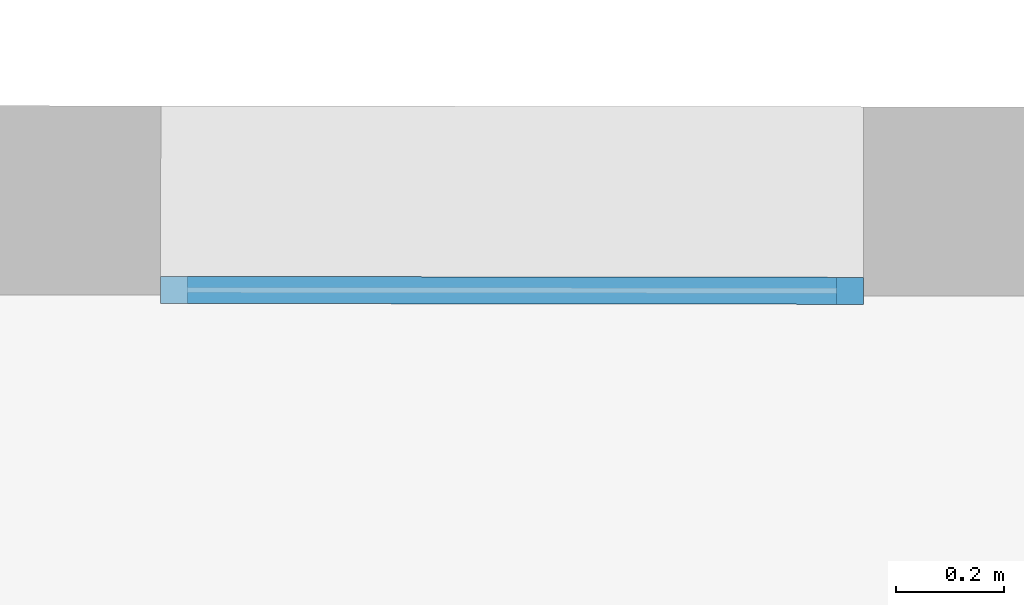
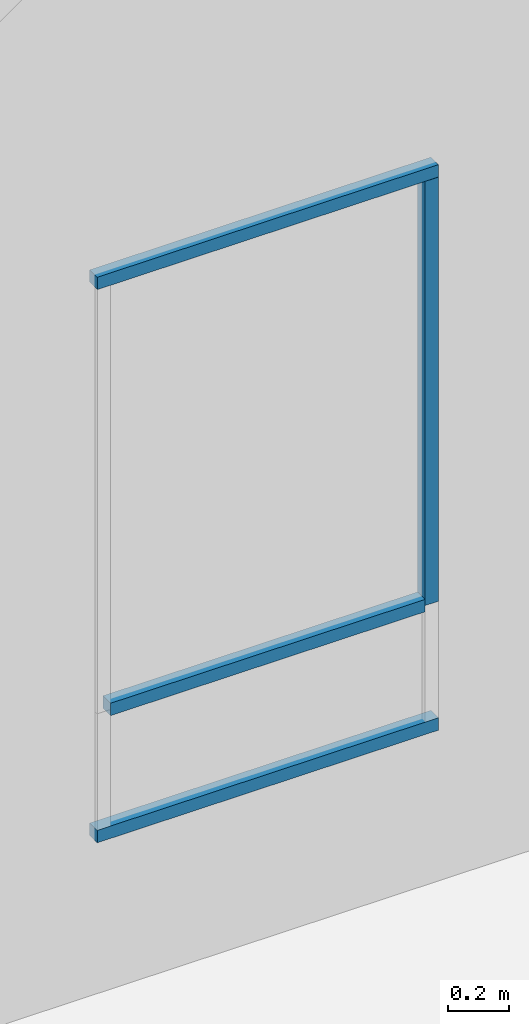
# One storey, part 4 of 35: 4 members, 1 element without a shape of its own.
"""IFC2X3 building model written with IfcOpenShell, lengths in metres."""

from ifc_helpers import new_model, entity, si_unit, converted_unit, derived_unit, direction, frame, frame_2d, origin, origin_2d_with_axis, place, context, subcontext, project, spatial, rectangle, extrude, source, transform, mapped, material, type_object, type_shapes, element, aggregate, save


model = new_model("IFC2X3")

# Units and contexts
model_context = context("Model", 3, precision=1e-05, world=origin(), true_north=direction((6.123233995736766e-17, 1.0)))
body_context = subcontext(model_context, "Body", "Model", "MODEL_VIEW")
ifc_project = project(units=[si_unit("LENGTHUNIT", "METRE"), si_unit("AREAUNIT", "SQUARE_METRE"), converted_unit("PLANEANGLEUNIT", "DEGREE", entity("IfcPlaneAngleMeasure", 0.017453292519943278), si_unit("PLANEANGLEUNIT", "RADIAN"), dimensions=[0, 0, 0, 0, 0, 0, 0]), derived_unit("THERMALTRANSMITTANCEUNIT", [(si_unit("MASSUNIT", "GRAM", prefix="KILO"), 1), (si_unit("THERMODYNAMICTEMPERATUREUNIT", "KELVIN"), -1), (si_unit("TIMEUNIT", "SECOND"), -3)])], contexts=[model_context])

# Site, building, storey
site_placement = place(None, frame((1253.6752467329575, 2072.143113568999, 91.49999999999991), z_axis=(0.0, 0.0, 1.0), x_axis=(0.7237211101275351, 0.6900925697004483, 0.0)))
site = spatial("IfcSite", under=ifc_project, at=site_placement, Name="Surface", CompositionType="ELEMENT")
building_placement = place(site_placement, origin())
building = spatial("IfcBuilding", under=site, at=building_placement, CompositionType="ELEMENT")
storey_placement = place(building_placement, frame((0.0, 0.0, 3.549999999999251)))
storey = spatial("IfcBuildingStorey", under=building, at=storey_placement, Name="1-R+1", CompositionType="ELEMENT", Elevation=3.549999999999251)

# Curtain wall, members
curtain_wall_type = type_object("IfcCurtainWallType", Name="Mur-rideau:Menuiserie Ext 1F+1OB VERTIC", PredefinedType="NOTDEFINED")
curtain_wall_placement = place(storey_placement, frame((0.0, 0.0, -3.549999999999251)))
curtain_wall = element("IfcCurtainWall", 1, at=curtain_wall_placement, inside=storey, type_object=curtain_wall_type, Name="Mur-rideau:Menuiserie Ext 1F+1OB VERTIC", ObjectType="Mur-rideau:Menuiserie Ext 1F+1OB VERTIC")
ifc_material = material(Name="OMD_Aluminium Men Ext")
member_type_1 = type_object("IfcMemberType", Name="Meneau rectangulaire:50x50", PredefinedType="MULLION", material=ifc_material)
shared_shape_1 = source(origin(), body_context, "Body", "SweptSolid", [
    extrude(rectangle(XDim=0.05, YDim=0.049999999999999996, at=origin_2d_with_axis()), frame((-0.025, 0.0, -1.2996959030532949), z_axis=(0.0, 0.0, 1.0), x_axis=(-1.0, 0.0, 0.0)), (0.0, 0.0, 1.0), 1.2996959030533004),
])
type_shapes(member_type_1, [shared_shape_1])
member_1_placement = place(curtain_wall_placement, frame((171.08228405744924, -9.892648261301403, 6.4499999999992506), z_axis=(-0.7228702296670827, 0.6909838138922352, 0.0), x_axis=(0.0, 0.0, 1.0)))
member_1 = element("IfcMember", 2, at=member_1_placement, type_object=member_type_1, material=ifc_material, Name="Meneau rectangulaire:50x50", ObjectType="Meneau rectangulaire:50x50", context=body_context, shape_type="MappedRepresentation", body=[
    mapped(shared_shape_1, transform((0.0, 0.0, 0.0), scale=1.0)),
])
member_type_2 = type_object("IfcMemberType", Name="Meneau rectangulaire:50x50", PredefinedType="MULLION", material=ifc_material)
shared_shape_2 = source(origin(), body_context, "Body", "SweptSolid", [
    extrude(rectangle(XDim=0.05, YDim=0.05, at=origin_2d_with_axis()), frame((-0.025, 0.0, -1.2996959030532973), z_axis=(0.0, 0.0, 1.0), x_axis=(-1.0, 0.0, 0.0)), (0.0, 0.0, 1.0), 1.2996959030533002),
])
type_shapes(member_type_2, [shared_shape_2])
member_2_placement = place(curtain_wall_placement, frame((172.02179553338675, -10.790717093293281, 4.169999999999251), z_axis=(0.7228702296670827, -0.6909838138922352, 0.0), x_axis=(0.0, 0.0, -1.0)))
member_2 = element("IfcMember", 3, at=member_2_placement, type_object=member_type_2, material=ifc_material, Name="Meneau rectangulaire:50x50", ObjectType="Meneau rectangulaire:50x50", context=body_context, shape_type="MappedRepresentation", body=[
    mapped(shared_shape_2, transform((0.0, 0.0, 0.0), scale=1.0)),
])
member_type_3 = type_object("IfcMemberType", Name="Meneau rectangulaire:50x50", PredefinedType="MULLION", material=ifc_material)
shared_shape_3 = source(origin(), body_context, "Body", "SweptSolid", [
    extrude(rectangle(XDim=0.05, YDim=0.049999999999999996, at=origin_2d_with_axis()), frame((-0.025, 0.0, -1.7099999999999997), z_axis=(0.0, 0.0, 1.0), x_axis=(-1.0, 0.0, 0.0)), (0.0, 0.0, 1.0), 1.7099999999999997),
])
type_shapes(member_type_3, [shared_shape_3])
member_3_placement = place(curtain_wall_placement, frame((172.02179553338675, -10.790717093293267, 6.399999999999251), z_axis=(0.0, 0.0, 1.0), x_axis=(0.7228702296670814, -0.6909838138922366, 0.0)))
member_3 = element("IfcMember", 4, at=member_3_placement, type_object=member_type_3, material=ifc_material, Name="Meneau rectangulaire:50x50", ObjectType="Meneau rectangulaire:50x50", context=body_context, shape_type="MappedRepresentation", body=[
    mapped(shared_shape_3, transform((0.0, 0.0, 0.0), scale=1.0)),
])
member_type_4 = type_object("IfcMemberType", Name="Meneau rectangulaire:50x50", PredefinedType="MULLION", material=ifc_material)
shared_shape_4 = source(origin(), body_context, "Body", "SweptSolid", [
    extrude(rectangle(XDim=0.05, YDim=0.05, at=frame_2d((0.0, -1.734723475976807e-18), x_axis=(1.0, 0.0))), frame((0.0, 0.0, -1.1996959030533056), z_axis=(0.0, 0.0, 1.0), x_axis=(-1.0, 0.0, 0.0)), (0.0, 0.0, 1.0), 1.1996959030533),
])
type_shapes(member_type_4, [shared_shape_4])
member_4_placement = place(curtain_wall_placement, frame((171.1184275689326, -9.927197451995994, 4.689999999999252), z_axis=(-0.7228702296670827, 0.6909838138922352, 0.0), x_axis=(0.0, 0.0, 1.0)))
member_4 = element("IfcMember", 5, at=member_4_placement, type_object=member_type_4, material=ifc_material, Name="Meneau rectangulaire:50x50", ObjectType="Meneau rectangulaire:50x50", context=body_context, shape_type="MappedRepresentation", body=[
    mapped(shared_shape_4, transform((0.0, 0.0, 0.0), scale=1.0)),
])
aggregate(curtain_wall, [member_1, member_2, member_3, member_4])

save(model, "model.ifc")
